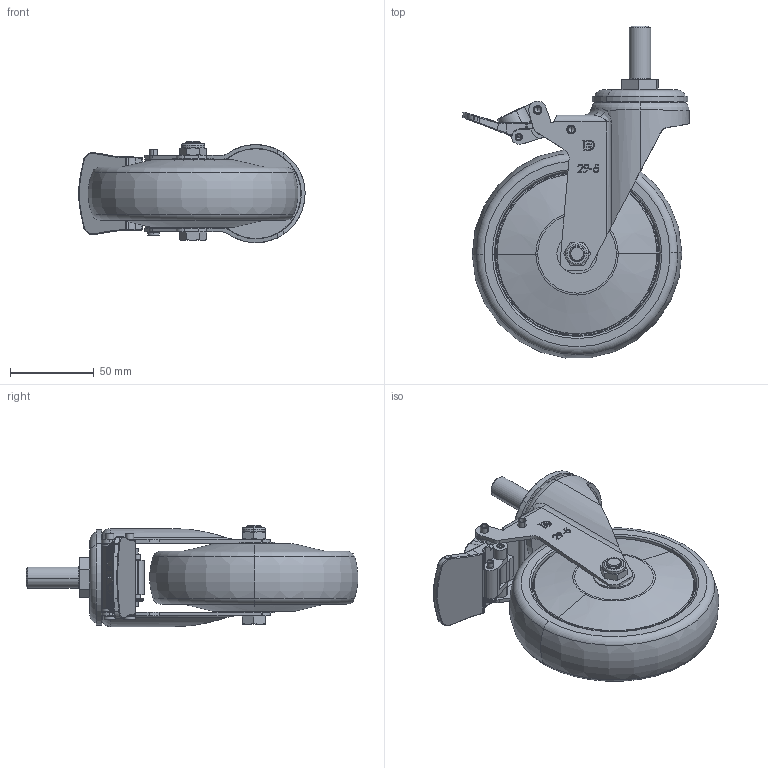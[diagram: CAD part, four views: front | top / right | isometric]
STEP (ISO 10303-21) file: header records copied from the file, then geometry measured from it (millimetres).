
FILE_DESCRIPTION (( 'STEP AP203' ), '1' );
FILE_NAME ('4112905004026-7.STEP', '2025-02-03T01:39:14', ( '' ), ( '' ), 'SwSTEP 2.0', 'SolidWorks 2019', '' );
FILE_SCHEMA (( 'CONFIG_CONTROL_DESIGN' ));
Length unit declared in the file: millimetre
Products named in the file (13): 4202095401 45儀器及高級活動車心54長20160220; 242010434001 3''''4''''5''''儀器架用煞車鉚釘-壓直花(4x34L); 29系列雙煞腳- 5''''展示用; 242010426001 4''''.5''''儀器架煞車彈片用鉚釘-3.9x3.0x26.5L; 12106170400023 儀器雙煞踏板OFF(New架用) 4''''5''''6''''共用(灰色)_162832; 12106170400022-儀器雙煞踏板ON(New架用) 4''''5''''6''''共用(灰色); 245020900003 尼龍螺帽  3 8''''(對邊14x7L); 4112905004026-7; 29系列絲扣5''''腳架上珠碗-展示用; 245042402001 墊圈-電鍍 23x15.2x2.3t_084048; 5PPR近-甶; 242010449001 4''''.5''''儀器輪用煞車空心鉚釘 4.8x49L_133503; 4201123205 4''''.5''''儀器輪用牙心-鍍鋅 1 2''''-12牙x32L(New) 20160528_133518
Assembly tree (13 placements, depth 2):
  4112905004026-7
    29系列雙煞腳- 5''''展示用
    29系列絲扣5''''腳架上珠碗-展示用
    12106170400023 儀器雙煞踏板OFF(New架用) 4''''5''''6''''共用(灰色)_162832
    12106170400022-儀器雙煞踏板ON(New架用) 4''''5''''6''''共用(灰色)
    242010449001 4''''.5''''儀器輪用煞車空心鉚釘 4.8x49L_133503  x2
    242010434001 3''''4''''5''''儀器架用煞車鉚釘-壓直花(4x34L)
    242010426001 4''''.5''''儀器架煞車彈片用鉚釘-3.9x3.0x26.5L
    5PPR近-甶
    245020900003 尼龍螺帽  3 8''''(對邊14x7L)
    4202095401 45儀器及高級活動車心54長20160220
    245042402001 墊圈-電鍍 23x15.2x2.3t_084048
    4201123205 4''''.5''''儀器輪用牙心-鍍鋅 1 2''''-12牙x32L(New) 20160528_133518
Bounding box: 134.75 x 197.72 x 60.45 mm (x, y, z)
Volume: 410774.4 mm3; surface area: 129504.6 mm2
Topology: 14 solids, 14 shells, 815 faces, 2016 edges, 1271 vertices
Faces by surface type: plane 313, cylinder 235, bspline 111, torus 74, cone 72, sphere 10
Entity records: 32564 total; most frequent: CARTESIAN_POINT 12830, ORIENTED_EDGE 3956, DIRECTION 3634, EDGE_CURVE 1978, AXIS2_PLACEMENT_3D 1343, VERTEX_POINT 1252, LINE 948, VECTOR 948
